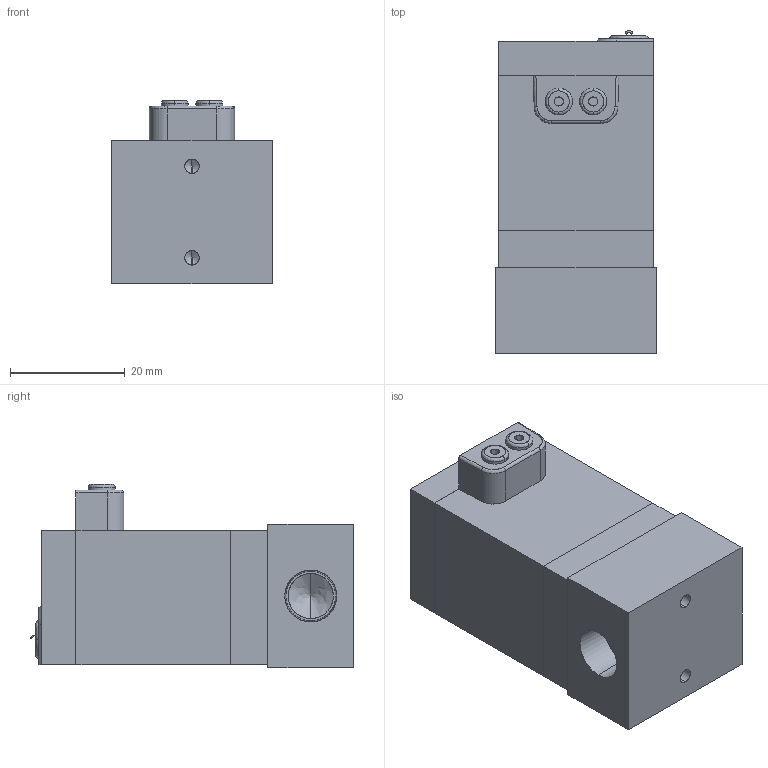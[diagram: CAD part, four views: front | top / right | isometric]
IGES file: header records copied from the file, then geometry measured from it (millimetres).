
Start section: SolidWorks IGES file using analytic representation for surfaces
Global section: file name: C:\Users\Toshiba\Desktop\SS231-01-#L#.IGS; native system: SolidWorks 2014; preprocessor: SolidWorks 2014; author: Toshiba; date: 160801.111422; units: millimetre
Bounding box: 28 x 56.47 x 32 mm (x, y, z)
Surface area: 12565.1 mm2 (no closed solid volume)
Topology: 0 solids, 0 shells, 171 faces, 1824 edges, 1812 vertices
Faces by surface type: bspline 99, revolution 72
